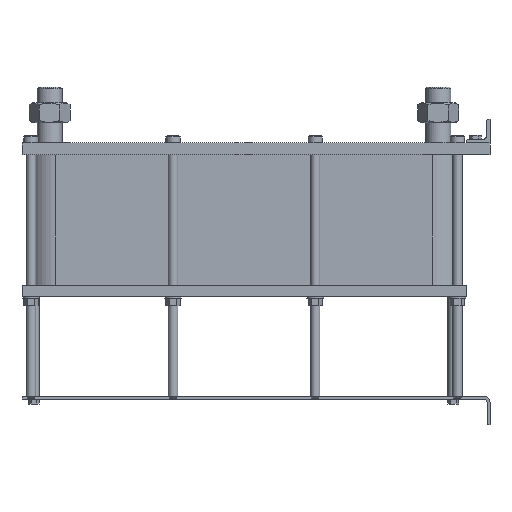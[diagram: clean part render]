
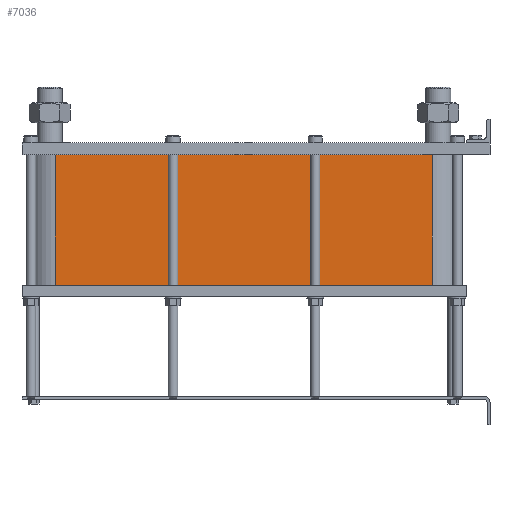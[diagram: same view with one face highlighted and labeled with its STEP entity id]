
A CAD part, left-side view. The second image highlights one B-rep face of the part: STEP entity #7036.
In plain terms, the highlighted planar face has unit normal (-1, 0, 0).
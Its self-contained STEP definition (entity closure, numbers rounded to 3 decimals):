
#999=LINE('',#15640,#1553);
#1031=LINE('',#15723,#1585);
#1032=LINE('',#15726,#1586);
#1033=LINE('',#15727,#1587);
#1553=VECTOR('',#9658,10.);
#1585=VECTOR('',#9736,10.);
#1586=VECTOR('',#9741,10.);
#1587=VECTOR('',#9742,10.);
#2117=FACE_OUTER_BOUND('',#2671,.T.);
#2671=EDGE_LOOP('',(#6246,#6247,#6248,#6249));
#3527=VERTEX_POINT('',#15634);
#3529=VERTEX_POINT('',#15638);
#3556=VERTEX_POINT('',#15720);
#3557=VERTEX_POINT('',#15722);
#4425=EDGE_CURVE('',#3529,#3527,#999,.T.);
#4466=EDGE_CURVE('',#3557,#3556,#1031,.T.);
#4468=EDGE_CURVE('',#3527,#3556,#1032,.T.);
#4469=EDGE_CURVE('',#3557,#3529,#1033,.T.);
#6246=ORIENTED_EDGE('',*,*,#4468,.F.);
#6247=ORIENTED_EDGE('',*,*,#4425,.F.);
#6248=ORIENTED_EDGE('',*,*,#4469,.F.);
#6249=ORIENTED_EDGE('',*,*,#4466,.T.);
#6608=PLANE('',#7812);
#7036=ADVANCED_FACE('',(#2117),#6608,.T.);
#7812=AXIS2_PLACEMENT_3D('',#15725,#9739,#9740);
#9658=DIRECTION('',(0.,0.,-1.));
#9736=DIRECTION('',(0.,0.,-1.));
#9739=DIRECTION('center_axis',(-1.,0.,0.));
#9740=DIRECTION('ref_axis',(0.,1.,0.));
#9741=DIRECTION('',(0.,1.,0.));
#9742=DIRECTION('',(0.,-1.,0.));
#15634=CARTESIAN_POINT('',(-72.,97.5,-220.1));
#15638=CARTESIAN_POINT('',(-72.,97.5,0.));
#15640=CARTESIAN_POINT('',(-72.,97.5,0.));
#15720=CARTESIAN_POINT('',(-72.,733.5,-220.1));
#15722=CARTESIAN_POINT('',(-72.,733.5,0.));
#15723=CARTESIAN_POINT('',(-72.,733.5,0.));
#15725=CARTESIAN_POINT('Origin',(-72.,97.5,0.));
#15726=CARTESIAN_POINT('',(-72.,256.5,-220.1));
#15727=CARTESIAN_POINT('',(-72.,733.5,0.));
